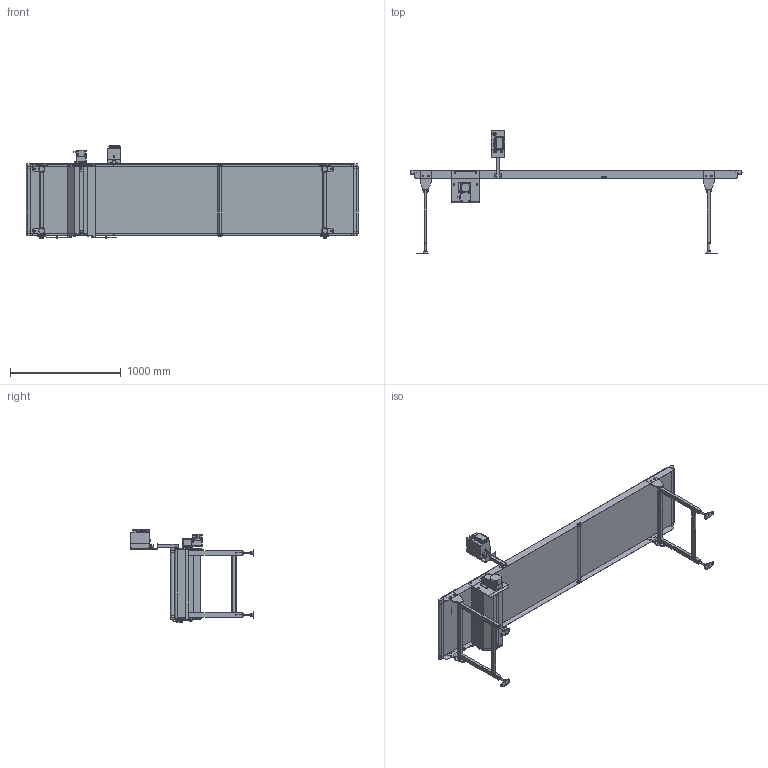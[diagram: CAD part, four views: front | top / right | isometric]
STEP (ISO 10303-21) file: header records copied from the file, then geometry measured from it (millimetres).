
FILE_DESCRIPTION( (''), '2;1');
FILE_NAME ('TBC-HH-309-600-300-L-DC-30.stp','2025-01-29T16:39:29',(''),(''),'spGate 20.6.2 (****-****-****-****)','','');
FILE_SCHEMA (('AUTOMOTIVE_DESIGN'));
Length unit declared in the file: millimetre
Products named in the file (96): NewModel; TEMP_X_T-prt0; TEMP_X_T-prt1; TEMP_X_T-prt2; TEMP_X_T-prt3; TEMP_X_T-prt4; TEMP_X_T-prt5; TEMP_X_T-prt6; TEMP_X_T-prt7; TEMP_X_T-prt8; TEMP_X_T-prt9; TEMP_X_T-prt10; TEMP_X_T-prt11; TEMP_X_T-prt12; TEMP_X_T-prt13; TEMP_X_T-prt14; TEMP_X_T-prt15; TEMP_X_T-prt16; TEMP_X_T-prt17; TEMP_X_T-prt18; TEMP_X_T-prt19; TEMP_X_T-prt20; TEMP_X_T-prt21; TEMP_X_T-prt22; TEMP_X_T-prt23; TEMP_X_T-prt24; TEMP_X_T-prt25; TEMP_X_T-prt26; TEMP_X_T-prt27; TEMP_X_T-prt28; TEMP_X_T-prt29; TEMP_X_T-prt30; TEMP_X_T-prt31; TEMP_X_T-prt32; TEMP_X_T-prt33; TEMP_X_T-prt34; TEMP_X_T-prt35; TEMP_X_T-prt36; TEMP_X_T-prt37; TEMP_X_T-prt38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
Assembly tree (95 placements, depth 2):
  NewModel
    TEMP_X_T-prt0
    TEMP_X_T-prt1
    TEMP_X_T-prt2
    TEMP_X_T-prt3
    TEMP_X_T-prt4
    TEMP_X_T-prt5
    TEMP_X_T-prt6
    TEMP_X_T-prt7
    TEMP_X_T-prt8
    TEMP_X_T-prt9
    TEMP_X_T-prt10
    TEMP_X_T-prt11
    TEMP_X_T-prt12
    TEMP_X_T-prt13
    TEMP_X_T-prt14
    TEMP_X_T-prt15
    TEMP_X_T-prt16
    TEMP_X_T-prt17
    TEMP_X_T-prt18
    TEMP_X_T-prt19
    TEMP_X_T-prt20
    TEMP_X_T-prt21
    TEMP_X_T-prt22
    TEMP_X_T-prt23
    TEMP_X_T-prt24
    TEMP_X_T-prt25
    TEMP_X_T-prt26
    TEMP_X_T-prt27
    TEMP_X_T-prt28
    TEMP_X_T-prt29
    TEMP_X_T-prt30
    TEMP_X_T-prt31
    TEMP_X_T-prt32
    TEMP_X_T-prt33
    TEMP_X_T-prt34
    TEMP_X_T-prt35
    TEMP_X_T-prt36
    TEMP_X_T-prt37
    TEMP_X_T-prt38
    TEMP_X_T-prt39
    TEMP_X_T-prt40
    TEMP_X_T-prt41
    TEMP_X_T-prt42
    TEMP_X_T-prt43
    TEMP_X_T-prt44
    TEMP_X_T-prt45
    TEMP_X_T-prt46
    TEMP_X_T-prt47
    TEMP_X_T-prt48
    TEMP_X_T-prt49
    TEMP_X_T-prt50
    TEMP_X_T-prt51
    TEMP_X_T-prt52
    TEMP_X_T-prt53
    TEMP_X_T-prt54
    TEMP_X_T-prt55
    TEMP_X_T-prt56
    TEMP_X_T-prt57
    TEMP_X_T-prt58
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Bounding box: 3002 x 1111 x 848.5 mm (x, y, z)
Volume: 51017898.9 mm3; surface area: 14554491.5 mm2
Topology: 95 solids, 95 shells, 2983 faces, 7228 edges, 4563 vertices
Faces by surface type: plane 1619, cylinder 808, bspline 544, sphere 12
Entity records: 155821 total; most frequent: CARTESIAN_POINT 27366, ORIENTED_EDGE 14392, DIRECTION 13559, COLOUR_RGB 10274, PRESENTATION_STYLE_ASSIGNMENT 10274, STYLED_ITEM 10274, EDGE_CURVE 7196, DRAUGHTING_PRE_DEFINED_CURVE_FONT 7196
